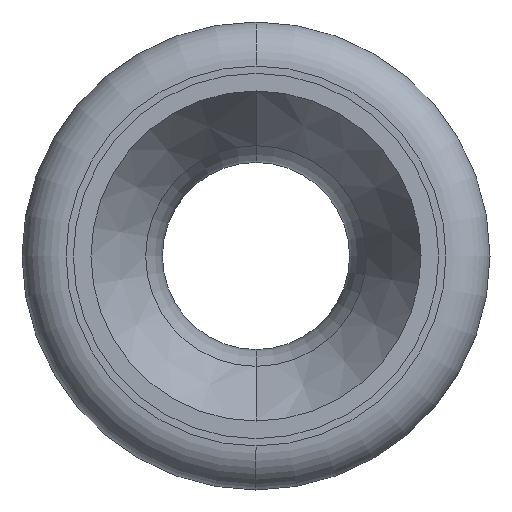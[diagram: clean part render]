
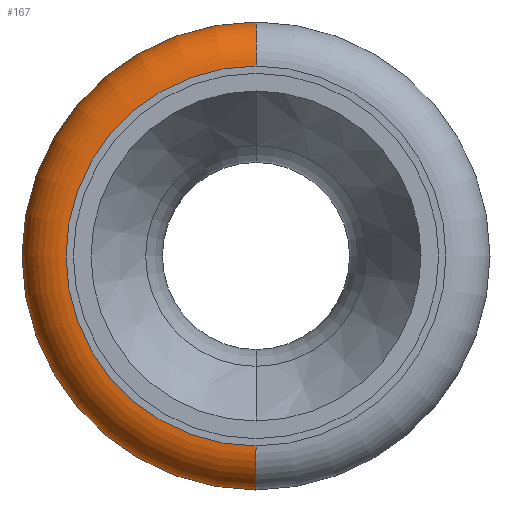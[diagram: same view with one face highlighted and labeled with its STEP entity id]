
A CAD part, left-side view. The second image highlights one B-rep face of the part: STEP entity #167.
In plain terms, the highlighted toroidal (fillet/blend) face has major radius 12.95 mm and minor radius 3 mm.
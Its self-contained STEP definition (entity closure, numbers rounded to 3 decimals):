
#167=ADVANCED_FACE('',(#376),#377,.T.);
#376=FACE_OUTER_BOUND('',#640,.T.);
#377=TOROIDAL_SURFACE('',#641,12.95,3.);
#640=EDGE_LOOP('',(#1053,#1054,#1055,#1056));
#641=AXIS2_PLACEMENT_3D('',#1057,#1058,#1059);
#1053=ORIENTED_EDGE('',*,*,#1495,.T.);
#1054=ORIENTED_EDGE('',*,*,#1577,.F.);
#1055=ORIENTED_EDGE('',*,*,#1578,.F.);
#1056=ORIENTED_EDGE('',*,*,#1579,.F.);
#1057=CARTESIAN_POINT('',(8.,0.0,0.));
#1058=DIRECTION('',(-1.0,0.0,0.));
#1059=DIRECTION('',(0.,0.0,1.0));
#1495=EDGE_CURVE('',#1724,#1723,#1768,.T.);
#1577=EDGE_CURVE('',#1890,#1723,#1891,.T.);
#1578=EDGE_CURVE('',#1892,#1890,#1893,.T.);
#1579=EDGE_CURVE('',#1724,#1892,#1894,.T.);
#1723=VERTEX_POINT('',#2060);
#1724=VERTEX_POINT('',#2061);
#1768=CIRCLE('',#2105,15.95);
#1890=VERTEX_POINT('',#2245);
#1891=CIRCLE('',#2246,3.);
#1892=VERTEX_POINT('',#2247);
#1893=CIRCLE('',#2248,12.95);
#1894=CIRCLE('',#2249,3.);
#2060=CARTESIAN_POINT('',(8.,0.,-15.95));
#2061=CARTESIAN_POINT('',(8.,0.,15.95));
#2105=AXIS2_PLACEMENT_3D('',#2502,#2503,#2504);
#2245=CARTESIAN_POINT('',(5.,0.,-12.95));
#2246=AXIS2_PLACEMENT_3D('',#2652,#2653,#2654);
#2247=CARTESIAN_POINT('',(5.,0.,12.95));
#2248=AXIS2_PLACEMENT_3D('',#2655,#2656,#2657);
#2249=AXIS2_PLACEMENT_3D('',#2658,#2659,#2660);
#2502=CARTESIAN_POINT('',(8.,0.0,0.));
#2503=DIRECTION('',(-1.0,0.0,0.));
#2504=DIRECTION('',(0.,0.0,1.0));
#2652=CARTESIAN_POINT('',(8.,0.,-12.95));
#2653=DIRECTION('',(0.,-1.0,0.));
#2654=DIRECTION('',(0.,0.,-1.0));
#2655=CARTESIAN_POINT('',(5.,0.0,0.));
#2656=DIRECTION('',(-1.0,0.0,0.));
#2657=DIRECTION('',(0.,0.0,-1.0));
#2658=CARTESIAN_POINT('',(8.,0.,12.95));
#2659=DIRECTION('',(0.,-1.0,0.));
#2660=DIRECTION('',(0.,0.,1.0));
